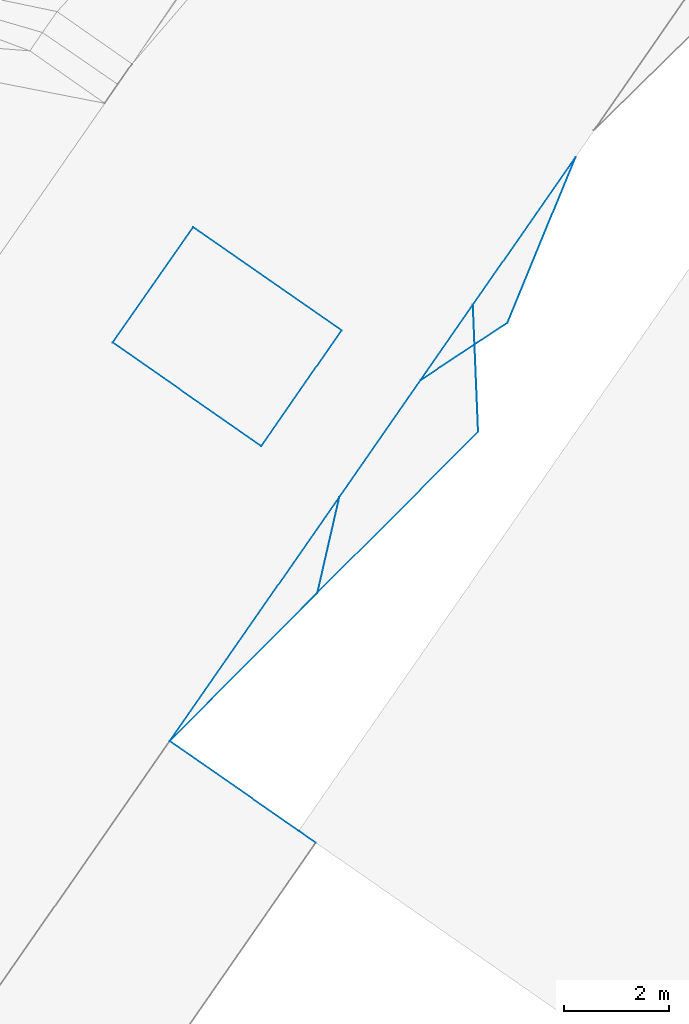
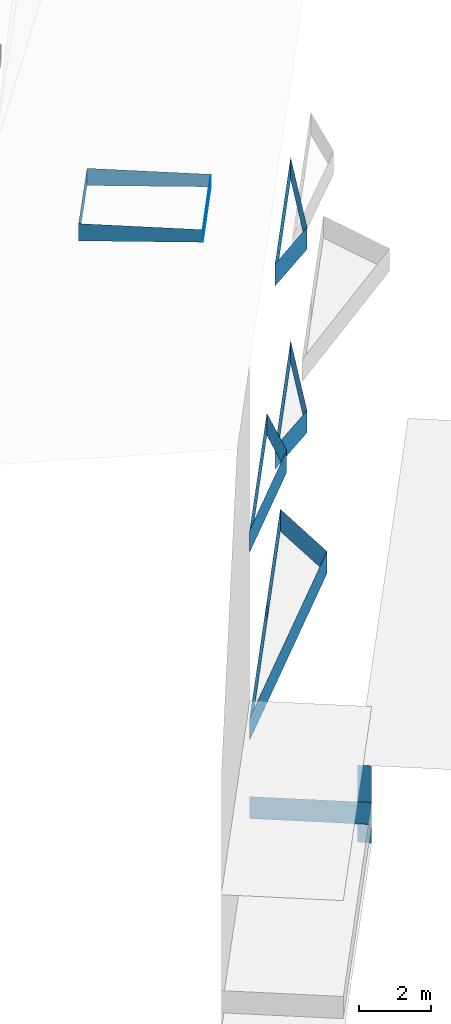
# Not in any storey, part 39 of 136: 32 walls.
"""IFC2X3 building model written with IfcOpenShell, lengths in metres."""

from ifc_helpers import new_model, entity, si_unit, converted_unit, origin, place, context, subcontext, project, spatial, face_set, surface_model, element, save


model = new_model("IFC2X3")

# Units and contexts
model_context = context("Model", 3, precision=1e-05, world=origin())
body_context = subcontext(model_context, "Body", "Model", "MODEL_VIEW")
ifc_project = project(units=[converted_unit("PLANEANGLEUNIT", "DEGREE", entity("IfcRatioMeasure", 0.0174532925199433), si_unit("PLANEANGLEUNIT", "RADIAN"), dimensions=[0, 0, 0, 0, 0, 0, 0]), si_unit("AREAUNIT", "SQUARE_METRE"), si_unit("LENGTHUNIT", "METRE")], contexts=[model_context])

# Site, building
site_placement = place(None, origin())
site = spatial("IfcSite", under=ifc_project, at=site_placement, Name="_site", CompositionType="ELEMENT")
building_placement = place(site_placement, origin())
building = spatial("IfcBuilding", under=site, at=building_placement, Name="_building", CompositionType="ELEMENT")

# Walls
wall_1_placement = place(building_placement, origin())
element("IfcWall", 1, at=wall_1_placement, inside=building, Name="Wall", context=body_context, shape_type="SurfaceModel", body=[
    surface_model("IfcFaceBasedSurfaceModel", [(-34.74, 69.51, 44.42), (-31.78, 73.771, 44.42), (-31.78, 73.771, 45.17), (-34.74, 69.51, 45.17)], [face_set([[[0, 1, 2, 3]]])]),
])
wall_2_placement = place(building_placement, origin())
element("IfcWall", 2, at=wall_2_placement, inside=building, Name="Wall", context=body_context, shape_type="SurfaceModel", body=[
    surface_model("IfcFaceBasedSurfaceModel", [(-39.53, 62.62, 41.1), (-36.29, 67.28, 41.1), (-36.29, 67.28, 41.85), (-39.53, 62.62, 41.85)], [face_set([[[0, 1, 2, 3]]])]),
])
wall_3_placement = place(building_placement, origin())
element("IfcWall", 3, at=wall_3_placement, inside=building, Name="Wall", context=body_context, shape_type="SurfaceModel", body=[
    surface_model("IfcFaceBasedSurfaceModel", [(-33.64, 68.53, 41.1), (-39.53, 62.62, 41.1), (-39.53, 62.62, 41.85), (-33.64, 68.53, 41.85)], [face_set([[[0, 1, 2, 3]]])]),
])
wall_4_placement = place(building_placement, origin())
element("IfcWall", 4, at=wall_4_placement, inside=building, Name="Wall", context=body_context, shape_type="SurfaceModel", body=[
    surface_model("IfcFaceBasedSurfaceModel", [(-33.74, 70.95, 41.1), (-33.64, 68.53, 41.1), (-33.64, 68.53, 41.85), (-33.74, 70.95, 41.85)], [face_set([[[0, 1, 2, 3]]])]),
])
wall_5_placement = place(building_placement, origin())
element("IfcWall", 5, at=wall_5_placement, inside=building, Name="Wall", context=body_context, shape_type="SurfaceModel", body=[
    surface_model("IfcFaceBasedSurfaceModel", [(-36.29, 67.28, 41.1), (-33.74, 70.95, 41.1), (-33.74, 70.95, 41.85), (-36.29, 67.28, 41.85)], [face_set([[[0, 1, 2, 3]]])]),
])
wall_6_placement = place(building_placement, origin())
element("IfcWall", 6, at=wall_6_placement, inside=building, Name="Wall", context=body_context, shape_type="SurfaceModel", body=[
    surface_model("IfcFaceBasedSurfaceModel", [(-39.53, 62.62, 41.1), (-36.29, 67.28, 41.1), (-36.29, 67.28, 41.85), (-39.53, 62.62, 41.85)], [face_set([[[0, 1, 2, 3]]])]),
])
wall_7_placement = place(building_placement, origin())
element("IfcWall", 7, at=wall_7_placement, inside=building, Name="Wall", context=body_context, shape_type="SurfaceModel", body=[
    surface_model("IfcFaceBasedSurfaceModel", [(-33.74, 70.95, 41.1), (-33.64, 68.53, 41.1), (-33.64, 68.53, 41.85), (-33.74, 70.95, 41.85)], [face_set([[[0, 1, 2, 3]]])]),
])
wall_8_placement = place(building_placement, origin())
element("IfcWall", 8, at=wall_8_placement, inside=building, Name="Wall", context=body_context, shape_type="SurfaceModel", body=[
    surface_model("IfcFaceBasedSurfaceModel", [(-36.29, 67.28, 41.1), (-33.74, 70.95, 41.1), (-33.74, 70.95, 41.85), (-36.29, 67.28, 41.85)], [face_set([[[0, 1, 2, 3]]])]),
])
wall_9_placement = place(building_placement, origin())
element("IfcWall", 9, at=wall_9_placement, inside=building, Name="Wall", context=body_context, shape_type="SurfaceModel", body=[
    surface_model("IfcFaceBasedSurfaceModel", [(-33.64, 68.53, 41.1), (-39.53, 62.62, 41.1), (-39.53, 62.62, 41.85), (-33.64, 68.53, 41.85)], [face_set([[[0, 1, 2, 3]]])]),
])
wall_10_placement = place(building_placement, origin())
element("IfcWall", 10, at=wall_10_placement, inside=building, Name="Wall", context=body_context, shape_type="SurfaceModel", body=[
    surface_model("IfcFaceBasedSurfaceModel", [(-39.53, 62.62, 47.47), (-36.29, 67.28, 47.47), (-36.29, 67.28, 48.22), (-39.53, 62.62, 48.22)], [face_set([[[0, 1, 2, 3]]])]),
])
wall_11_placement = place(building_placement, origin())
element("IfcWall", 11, at=wall_11_placement, inside=building, Name="Wall", context=body_context, shape_type="SurfaceModel", body=[
    surface_model("IfcFaceBasedSurfaceModel", [(-36.29, 67.28, 47.47), (-36.71, 65.45, 47.47), (-36.71, 65.45, 48.22), (-36.29, 67.28, 48.22)], [face_set([[[0, 1, 2, 3]]])]),
])
wall_12_placement = place(building_placement, origin())
element("IfcWall", 12, at=wall_12_placement, inside=building, Name="Wall", context=body_context, shape_type="SurfaceModel", body=[
    surface_model("IfcFaceBasedSurfaceModel", [(-36.71, 65.45, 47.47), (-39.53, 62.62, 47.47), (-39.53, 62.62, 48.22), (-36.71, 65.45, 48.22)], [face_set([[[0, 1, 2, 3]]])]),
])
wall_13_placement = place(building_placement, origin())
element("IfcWall", 13, at=wall_13_placement, inside=building, Name="Wall", context=body_context, shape_type="SurfaceModel", body=[
    surface_model("IfcFaceBasedSurfaceModel", [(-36.29, 67.28, 47.47), (-36.71, 65.45, 47.47), (-36.71, 65.45, 48.22), (-36.29, 67.28, 48.22)], [face_set([[[0, 1, 2, 3]]])]),
])
wall_14_placement = place(building_placement, origin())
element("IfcWall", 14, at=wall_14_placement, inside=building, Name="Wall", context=body_context, shape_type="SurfaceModel", body=[
    surface_model("IfcFaceBasedSurfaceModel", [(-31.78, 73.771, 44.42), (-33.08, 70.61, 44.42), (-33.08, 70.61, 45.17), (-31.78, 73.771, 45.17)], [face_set([[[0, 1, 2, 3]]])]),
])
wall_15_placement = place(building_placement, origin())
element("IfcWall", 15, at=wall_15_placement, inside=building, Name="Wall", context=body_context, shape_type="SurfaceModel", body=[
    surface_model("IfcFaceBasedSurfaceModel", [(-31.78, 73.771, 50.63), (-33.08, 70.61, 50.63), (-33.08, 70.61, 51.38), (-31.78, 73.771, 51.38)], [face_set([[[0, 1, 2, 3]]])]),
])
wall_16_placement = place(building_placement, origin())
element("IfcWall", 16, at=wall_16_placement, inside=building, Name="Wall", context=body_context, shape_type="SurfaceModel", body=[
    surface_model("IfcFaceBasedSurfaceModel", [(-34.74, 69.51, 50.63), (-31.78, 73.771, 50.63), (-31.78, 73.771, 51.38), (-34.74, 69.51, 51.38)], [face_set([[[0, 1, 2, 3]]])]),
])
wall_17_placement = place(building_placement, origin())
element("IfcWall", 17, at=wall_17_placement, inside=building, Name="Wall", context=body_context, shape_type="SurfaceModel", body=[
    surface_model("IfcFaceBasedSurfaceModel", [(-33.08, 70.61, 50.63), (-34.74, 69.51, 50.63), (-34.74, 69.51, 51.38), (-33.08, 70.61, 51.38)], [face_set([[[0, 1, 2, 3]]])]),
])
wall_18_placement = place(building_placement, origin())
element("IfcWall", 18, at=wall_18_placement, inside=building, Name="Wall", context=body_context, shape_type="SurfaceModel", body=[
    surface_model("IfcFaceBasedSurfaceModel", [(-34.74, 69.51, 50.63), (-31.78, 73.771, 50.63), (-31.78, 73.771, 51.38), (-34.74, 69.51, 51.38)], [face_set([[[0, 1, 2, 3]]])]),
])
wall_19_placement = place(building_placement, origin())
element("IfcWall", 19, at=wall_19_placement, inside=building, Name="Wall", context=body_context, shape_type="SurfaceModel", body=[
    surface_model("IfcFaceBasedSurfaceModel", [(-34.74, 69.51, 44.42), (-31.78, 73.771, 44.42), (-31.78, 73.771, 45.17), (-34.74, 69.51, 45.17)], [face_set([[[0, 1, 2, 3]]])]),
])
wall_20_placement = place(building_placement, origin())
element("IfcWall", 20, at=wall_20_placement, inside=building, Name="Wall", context=body_context, shape_type="SurfaceModel", body=[
    surface_model("IfcFaceBasedSurfaceModel", [(-33.08, 70.61, 44.42), (-34.74, 69.51, 44.42), (-34.74, 69.51, 45.17), (-33.08, 70.61, 45.17)], [face_set([[[0, 1, 2, 3]]])]),
])
wall_21_placement = place(building_placement, origin())
element("IfcWall", 21, at=wall_21_placement, inside=building, Name="Wall", context=body_context, shape_type="SurfaceModel", body=[
    surface_model("IfcFaceBasedSurfaceModel", [(-31.78, 73.771, 44.42), (-33.08, 70.61, 44.42), (-33.08, 70.61, 45.17), (-31.78, 73.771, 45.17)], [face_set([[[0, 1, 2, 3]]])]),
])
wall_22_placement = place(building_placement, origin())
element("IfcWall", 22, at=wall_22_placement, inside=building, Name="Wall", context=body_context, shape_type="SurfaceModel", body=[
    surface_model("IfcFaceBasedSurfaceModel", [(-36.25, 70.46, 54.37), (-37.78, 68.25, 54.37), (-37.78, 68.25, 53.943), (-36.25, 70.46, 53.944)], [face_set([[[0, 1, 2, 3]]])]),
])
wall_23_placement = place(building_placement, origin())
element("IfcWall", 23, at=wall_23_placement, inside=building, Name="Wall", context=body_context, shape_type="SurfaceModel", body=[
    surface_model("IfcFaceBasedSurfaceModel", [(-36.74, 60.68, 40.43), (-37.07, 60.91, 40.43), (-37.07, 60.91, 37.82), (-36.74, 60.68, 37.82)], [face_set([[[0, 1, 2, 3]]])]),
])
wall_24_placement = place(building_placement, origin())
element("IfcWall", 24, at=wall_24_placement, inside=building, Name="Wall", context=body_context, shape_type="SurfaceModel", body=[
    surface_model("IfcFaceBasedSurfaceModel", [(-33.08, 70.61, 50.63), (-34.74, 69.51, 50.63), (-34.74, 69.51, 51.38), (-33.08, 70.61, 51.38)], [face_set([[[0, 1, 2, 3]]])]),
])
wall_25_placement = place(building_placement, origin())
element("IfcWall", 25, at=wall_25_placement, inside=building, Name="Wall", context=body_context, shape_type="SurfaceModel", body=[
    surface_model("IfcFaceBasedSurfaceModel", [(-31.78, 73.771, 50.63), (-33.08, 70.61, 50.63), (-33.08, 70.61, 51.38), (-31.78, 73.771, 51.38)], [face_set([[[0, 1, 2, 3]]])]),
])
wall_26_placement = place(building_placement, origin())
element("IfcWall", 26, at=wall_26_placement, inside=building, Name="Wall", context=body_context, shape_type="SurfaceModel", body=[
    surface_model("IfcFaceBasedSurfaceModel", [(-37.78, 68.25, 54.37), (-40.62, 70.23, 54.37), (-40.62, 70.23, 53.785), (-37.78, 68.25, 53.943)], [face_set([[[0, 1, 2, 3]]])]),
])
wall_27_placement = place(building_placement, origin())
element("IfcWall", 27, at=wall_27_placement, inside=building, Name="Wall", context=body_context, shape_type="SurfaceModel", body=[
    surface_model("IfcFaceBasedSurfaceModel", [(-39.08, 72.43, 54.37), (-36.25, 70.46, 54.37), (-36.25, 70.46, 53.944), (-39.08, 72.43, 53.786)], [face_set([[[0, 1, 2, 3]]])]),
])
wall_28_placement = place(building_placement, origin())
element("IfcWall", 28, at=wall_28_placement, inside=building, Name="Wall", context=body_context, shape_type="SurfaceModel", body=[
    surface_model("IfcFaceBasedSurfaceModel", [(-39.53, 62.62, 47.47), (-36.29, 67.28, 47.47), (-36.29, 67.28, 48.22), (-39.53, 62.62, 48.22)], [face_set([[[0, 1, 2, 3]]])]),
])
wall_29_placement = place(building_placement, origin())
element("IfcWall", 29, at=wall_29_placement, inside=building, Name="Wall", context=body_context, shape_type="SurfaceModel", body=[
    surface_model("IfcFaceBasedSurfaceModel", [(-36.71, 65.45, 47.47), (-39.53, 62.62, 47.47), (-39.53, 62.62, 48.22), (-36.71, 65.45, 48.22)], [face_set([[[0, 1, 2, 3]]])]),
])
wall_30_placement = place(building_placement, origin())
element("IfcWall", 30, at=wall_30_placement, inside=building, Name="Wall", context=body_context, shape_type="SurfaceModel", body=[
    surface_model("IfcFaceBasedSurfaceModel", [(-40.62, 70.23, 54.37), (-39.08, 72.43, 54.37), (-39.08, 72.43, 53.786), (-40.62, 70.23, 53.785)], [face_set([[[0, 1, 2, 3]]])]),
])
wall_31_placement = place(building_placement, origin())
element("IfcWall", 31, at=wall_31_placement, inside=building, Name="Wall", context=body_context, shape_type="SurfaceModel", body=[
    surface_model("IfcFaceBasedSurfaceModel", [(-33.08, 70.61, 44.42), (-34.74, 69.51, 44.42), (-34.74, 69.51, 45.17), (-33.08, 70.61, 45.17)], [face_set([[[0, 1, 2, 3]]])]),
])
wall_32_placement = place(building_placement, origin())
element("IfcWall", 32, at=wall_32_placement, inside=building, Name="Wall", context=body_context, shape_type="SurfaceModel", body=[
    surface_model("IfcFaceBasedSurfaceModel", [(-39.53, 62.62, 38.44), (-36.74, 60.68, 38.44), (-36.74, 60.68, 39.19), (-39.53, 62.62, 39.19)], [face_set([[[0, 1, 2, 3]]])]),
])

save(model, "model.ifc")
